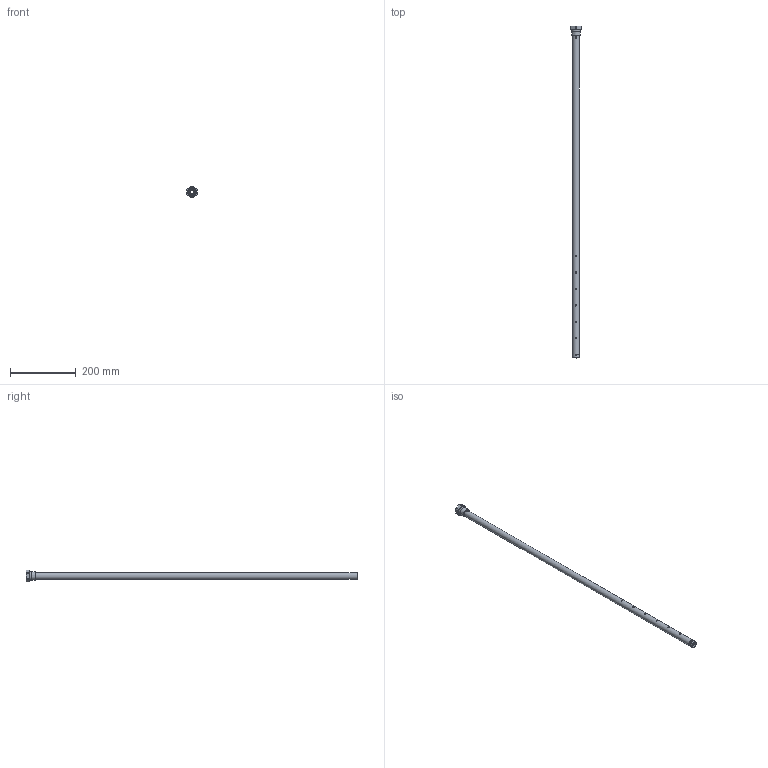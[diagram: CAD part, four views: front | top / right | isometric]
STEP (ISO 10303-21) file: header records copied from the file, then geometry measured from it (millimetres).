
FILE_DESCRIPTION( ( 'STEP AP203' ), '1' );
FILE_NAME( 'p:/temp/worker_54/temp/exporttempdir_6260_1214_v2O6W/format_3/E43220.stp', '2019-12-17T11:03:22', ( '' ), ( '' ), ' ', 'PARTsolutions', ' ' );
FILE_SCHEMA( ( 'CONFIG_CONTROL_DESIGN' ) );
Length unit declared in the file: millimetre
Products named in the file (1): _E43220
Bounding box: 32 x 1009.1 x 34.98 mm (x, y, z)
Volume: 69038.2 mm3; surface area: 123013.7 mm2
Topology: 1 solids, 1 shells, 87 faces, 276 edges, 175 vertices
Faces by surface type: cylinder 58, plane 19, cone 6, torus 4
Full cylindrical faces by diameter (mm): 4 x16, 16.5 x1, 18 x2, 20 x1, 24.117 x1, 26.75 x1
Entity records: 4774 total; most frequent: CARTESIAN_POINT 2619, ORIENTED_EDGE 412, DIRECTION 404, EDGE_CURVE 206, AXIS2_PLACEMENT_3D 174, EDGE_LOOP 160, VERTEX_POINT 153, FACE_OUTER_BOUND 113
